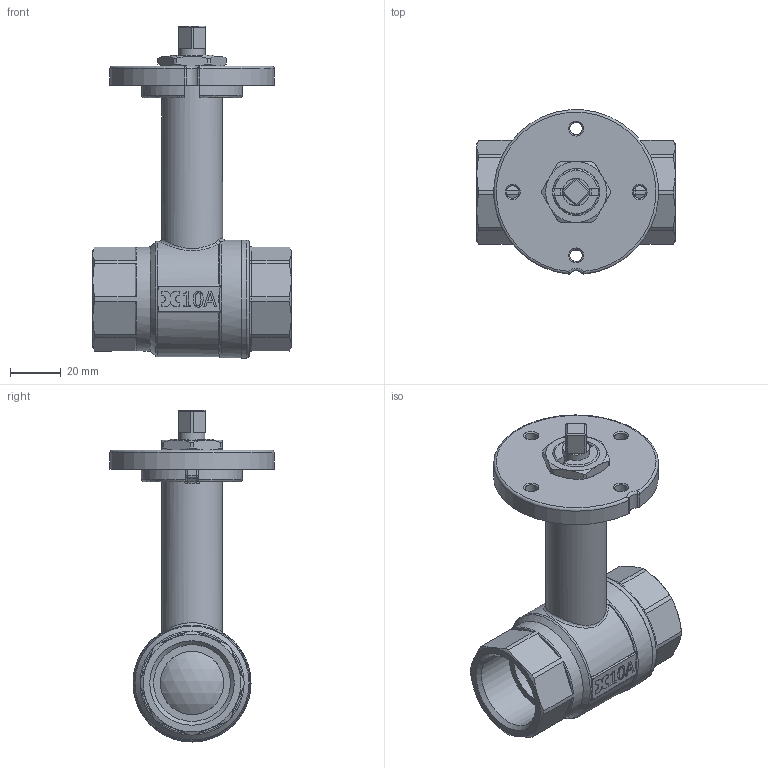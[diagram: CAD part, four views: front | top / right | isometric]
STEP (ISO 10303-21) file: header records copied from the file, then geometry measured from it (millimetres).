
FILE_DESCRIPTION((''),'2;1');
FILE_NAME('C:\Documents and Settings\ut4\Desktop\TICOM ULTIMATE\Art.109 PM SM 001.stp','2012-07-16T15:17:52',('ut4'),(''),'Autodesk Inventor 2013','Autodesk Inventor 2013','');
FILE_SCHEMA(('AUTOMOTIVE_DESIGN { 1 0 10303 214 1 1 1 1 }'));
Length unit declared in the file: millimetre
Products named in the file (14): Valvola a sfera mot. 001 art.109 PM SM; Sfera 001; O-ring 29.82 x 2; Anello antigrip. perno mot. Ø15; Boccola antigrip. perno mot. Ø15; O-ring 11.11 x 1; Sede 001; Manic. femmina-deviatore 001 mot; Corpo prolunga mot. 001; Perno prolunga mot. 15 q8; Tubetto prolunga mot; Ghiera ferma asta mot. 20-19 prolunga; Dischetto portamotore SM Ø19 lav; Dado blocca piastra SM2
Assembly tree (17 placements, depth 2):
  Valvola a sfera mot. 001 art.109 PM SM
    Sfera 001
    O-ring 29.82 x 2  x2
    Anello antigrip. perno mot. Ø15
    Boccola antigrip. perno mot. Ø15  x2
    O-ring 11.11 x 1  x2
    Sede 001  x2
    Manic. femmina-deviatore 001 mot
    Corpo prolunga mot. 001
    Perno prolunga mot. 15 q8
    Tubetto prolunga mot
    Ghiera ferma asta mot. 20-19 prolunga
    Dischetto portamotore SM Ø19 lav
    Dado blocca piastra SM2
Bounding box: 78.2 x 64.73 x 130.85 mm (x, y, z)
Volume: 113576.2 mm3; surface area: 70105.6 mm2
Topology: 17 solids, 17 shells, 601 faces, 1464 edges, 904 vertices
Faces by surface type: plane 235, cylinder 161, cone 70, torus 63, bspline 51, sphere 21
Full cylindrical faces by diameter (mm): 4.917 x4, 10.5 x3, 10.7 x1, 12 x1, 12.1 x2, 12.4 x2, 12.5 x4, 14.9 x3, 15 x5, 17.5 x1, 18 x1, 18.3 x1, 18.5 x1, 19 x2, 20 x1, 24 x1, 25 x5, 29.9 x2, 30.3 x2, 35 x4, 40.5 x1, 41 x1, 42 x1, 43 x1, 45.5 x1, 46.5 x2
Entity records: 18628 total; most frequent: CARTESIAN_POINT 4866, DIRECTION 2676, ORIENTED_EDGE 2616, EDGE_CURVE 1308, AXIS2_PLACEMENT_3D 1056, VERTEX_POINT 867, EDGE_LOOP 733, FACE_OUTER_BOUND 583
